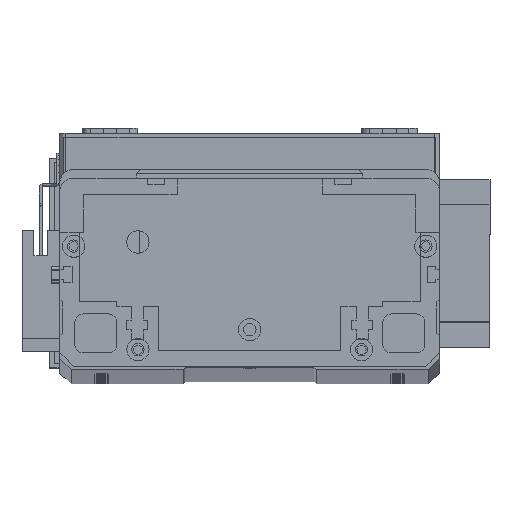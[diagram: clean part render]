
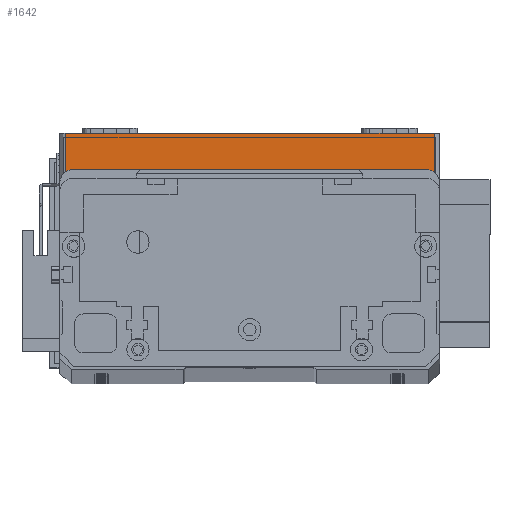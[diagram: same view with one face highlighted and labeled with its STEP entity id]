
A CAD part, top view. The second image highlights one B-rep face of the part: STEP entity #1642.
In plain terms, the highlighted planar face has unit normal (0, 0, 1) as drawn and (0, -1, 0) by its records, which use the part's own axes.
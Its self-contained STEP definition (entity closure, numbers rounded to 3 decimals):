
#122 = CARTESIAN_POINT ( 'NONE',  ( 134., 0., 19.5 ) ) ;
#181 = EDGE_CURVE ( 'NONE', #2706, #30266, #2271, .T. ) ;
#1642 = ADVANCED_FACE ( 'NONE', ( #2191 ), #3388, .F. ) ;
#1894 = AXIS2_PLACEMENT_3D ( 'NONE', #17737, #5796, #22528 ) ;
#1953 = ORIENTED_EDGE ( 'NONE', *, *, #23310, .F. ) ;
#2191 = FACE_OUTER_BOUND ( 'NONE', #11623, .T. ) ;
#2257 = LINE ( 'NONE', #18357, #26186 ) ;
#2271 = LINE ( 'NONE', #8198, #20634 ) ;
#2706 = VERTEX_POINT ( 'NONE', #15800 ) ;
#2753 = ORIENTED_EDGE ( 'NONE', *, *, #18049, .T. ) ;
#3388 = PLANE ( 'NONE',  #1894 ) ;
#3761 = CARTESIAN_POINT ( 'NONE',  ( 2., 0., 0. ) ) ;
#5796 = DIRECTION ( 'NONE',  ( 0., 1., 0. ) ) ;
#6392 = DIRECTION ( 'NONE',  ( 1., 0., 0. ) ) ;
#8094 = DIRECTION ( 'NONE',  ( 0., 0., 1. ) ) ;
#8198 = CARTESIAN_POINT ( 'NONE',  ( 134., 0., 19.5 ) ) ;
#10248 = VECTOR ( 'NONE', #11437, 1000. ) ;
#11437 = DIRECTION ( 'NONE',  ( 1., 0., 0. ) ) ;
#11623 = EDGE_LOOP ( 'NONE', ( #1953, #21423, #2753, #28237 ) ) ;
#13962 = CARTESIAN_POINT ( 'NONE',  ( 2., 0., 19.5 ) ) ;
#15800 = CARTESIAN_POINT ( 'NONE',  ( 134., 0., 0. ) ) ;
#15880 = LINE ( 'NONE', #30571, #10248 ) ;
#17737 = CARTESIAN_POINT ( 'NONE',  ( 0., 0., 19.5 ) ) ;
#18049 = EDGE_CURVE ( 'NONE', #28345, #2706, #2257, .T. ) ;
#18357 = CARTESIAN_POINT ( 'NONE',  ( 0., 0., 0. ) ) ;
#20634 = VECTOR ( 'NONE', #8094, 1000. ) ;
#21423 = ORIENTED_EDGE ( 'NONE', *, *, #22710, .T. ) ;
#22528 = DIRECTION ( 'NONE',  ( 0., 0., 1. ) ) ;
#22710 = EDGE_CURVE ( 'NONE', #27892, #28345, #30872, .T. ) ;
#23310 = EDGE_CURVE ( 'NONE', #27892, #30266, #15880, .T. ) ;
#25264 = VECTOR ( 'NONE', #27226, 1000. ) ;
#26186 = VECTOR ( 'NONE', #6392, 1000. ) ;
#27226 = DIRECTION ( 'NONE',  ( 0., 0., -1. ) ) ;
#27319 = CARTESIAN_POINT ( 'NONE',  ( 2., 0., 19.5 ) ) ;
#27892 = VERTEX_POINT ( 'NONE', #13962 ) ;
#28237 = ORIENTED_EDGE ( 'NONE', *, *, #181, .T. ) ;
#28345 = VERTEX_POINT ( 'NONE', #3761 ) ;
#30266 = VERTEX_POINT ( 'NONE', #122 ) ;
#30571 = CARTESIAN_POINT ( 'NONE',  ( 0., 0., 19.5 ) ) ;
#30872 = LINE ( 'NONE', #27319, #25264 ) ;
